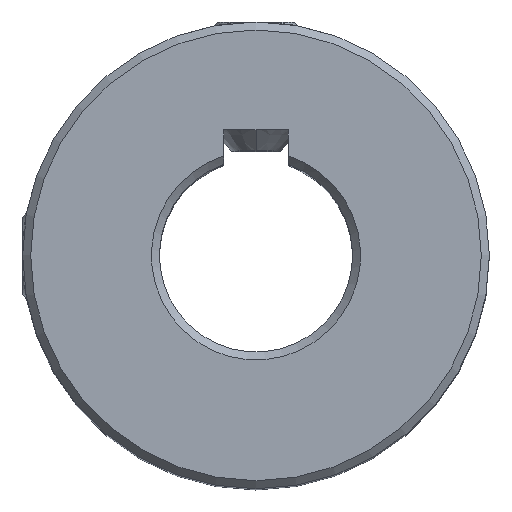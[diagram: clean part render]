
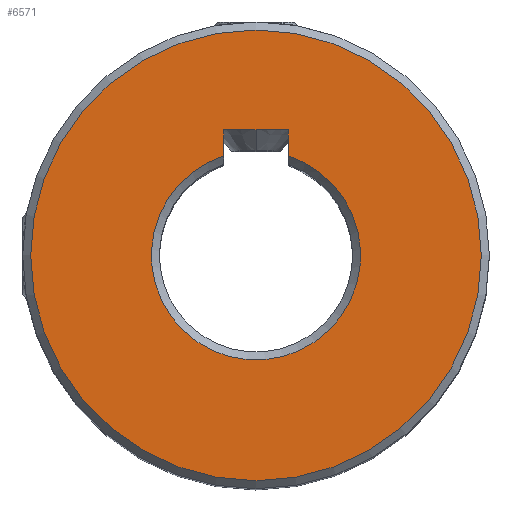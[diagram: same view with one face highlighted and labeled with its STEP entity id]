
A CAD part, top view. The second image highlights one B-rep face of the part: STEP entity #6571.
In plain terms, the highlighted planar face has unit normal (0, 0, 1).
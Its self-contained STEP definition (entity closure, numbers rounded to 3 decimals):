
#31 = VECTOR ( 'NONE', #5310, 1000. ) ;
#656 = CIRCLE ( 'NONE', #7948, 14. ) ;
#849 = CARTESIAN_POINT ( 'NONE',  ( 0., 0., 22.5 ) ) ;
#1012 = CARTESIAN_POINT ( 'NONE',  ( -2., 7.8, 22.5 ) ) ;
#1339 = VERTEX_POINT ( 'NONE', #8279 ) ;
#1363 = DIRECTION ( 'NONE',  ( 1., 0., 0. ) ) ;
#1386 = EDGE_LOOP ( 'NONE', ( #7410, #4297, #3263, #6158 ) ) ;
#1509 = CARTESIAN_POINT ( 'NONE',  ( 2., 7.8, 22.5 ) ) ;
#1514 = DIRECTION ( 'NONE',  ( 1., 0., 0. ) ) ;
#1702 = DIRECTION ( 'NONE',  ( 1., 0., 0. ) ) ;
#1733 = AXIS2_PLACEMENT_3D ( 'NONE', #849, #5544, #1514 ) ;
#1797 = EDGE_CURVE ( 'NONE', #6898, #3938, #2589, .T. ) ;
#2321 = CARTESIAN_POINT ( 'NONE',  ( -2., 6.185, 22.5 ) ) ;
#2372 = CARTESIAN_POINT ( 'NONE',  ( 0., 0., 22.5 ) ) ;
#2589 = LINE ( 'NONE', #7179, #31 ) ;
#2770 = CARTESIAN_POINT ( 'NONE',  ( 0., 0., 22.5 ) ) ;
#2791 = EDGE_CURVE ( 'NONE', #4219, #6898, #3890, .T. ) ;
#2982 = VECTOR ( 'NONE', #3793, 1000. ) ;
#3088 = EDGE_CURVE ( 'NONE', #1339, #3938, #5108, .T. ) ;
#3121 = FACE_BOUND ( 'NONE', #1386, .T. ) ;
#3229 = CARTESIAN_POINT ( 'NONE',  ( -2., 7.8, 22.5 ) ) ;
#3263 = ORIENTED_EDGE ( 'NONE', *, *, #6768, .F. ) ;
#3793 = DIRECTION ( 'NONE',  ( -1., 0., 0. ) ) ;
#3859 = VECTOR ( 'NONE', #6714, 1000. ) ;
#3890 = LINE ( 'NONE', #3229, #2982 ) ;
#3938 = VERTEX_POINT ( 'NONE', #2321 ) ;
#3998 = EDGE_CURVE ( 'NONE', #4587, #4587, #656, .T. ) ;
#4219 = VERTEX_POINT ( 'NONE', #1509 ) ;
#4297 = ORIENTED_EDGE ( 'NONE', *, *, #2791, .F. ) ;
#4587 = VERTEX_POINT ( 'NONE', #7189 ) ;
#4677 = CARTESIAN_POINT ( 'NONE',  ( 2., 7.8, 22.5 ) ) ;
#5056 = DIRECTION ( 'NONE',  ( 0., 0., 1. ) ) ;
#5108 = CIRCLE ( 'NONE', #1733, 6.5 ) ;
#5258 = EDGE_LOOP ( 'NONE', ( #8007 ) ) ;
#5310 = DIRECTION ( 'NONE',  ( 0., -1., 0. ) ) ;
#5544 = DIRECTION ( 'NONE',  ( 0., 0., -1. ) ) ;
#5801 = FACE_OUTER_BOUND ( 'NONE', #5258, .T. ) ;
#6106 = LINE ( 'NONE', #4677, #3859 ) ;
#6158 = ORIENTED_EDGE ( 'NONE', *, *, #3088, .T. ) ;
#6571 = ADVANCED_FACE ( 'NONE', ( #3121, #5801 ), #8462, .T. ) ;
#6663 = AXIS2_PLACEMENT_3D ( 'NONE', #2770, #7376, #1363 ) ;
#6714 = DIRECTION ( 'NONE',  ( 0., 1., 0. ) ) ;
#6768 = EDGE_CURVE ( 'NONE', #1339, #4219, #6106, .T. ) ;
#6898 = VERTEX_POINT ( 'NONE', #1012 ) ;
#7179 = CARTESIAN_POINT ( 'NONE',  ( -2., 7.8, 22.5 ) ) ;
#7189 = CARTESIAN_POINT ( 'NONE',  ( 14., 0., 22.5 ) ) ;
#7376 = DIRECTION ( 'NONE',  ( 0., 0., 1. ) ) ;
#7410 = ORIENTED_EDGE ( 'NONE', *, *, #1797, .F. ) ;
#7948 = AXIS2_PLACEMENT_3D ( 'NONE', #2372, #5056, #1702 ) ;
#8007 = ORIENTED_EDGE ( 'NONE', *, *, #3998, .T. ) ;
#8279 = CARTESIAN_POINT ( 'NONE',  ( 2., 6.185, 22.5 ) ) ;
#8462 = PLANE ( 'NONE',  #6663 ) ;
